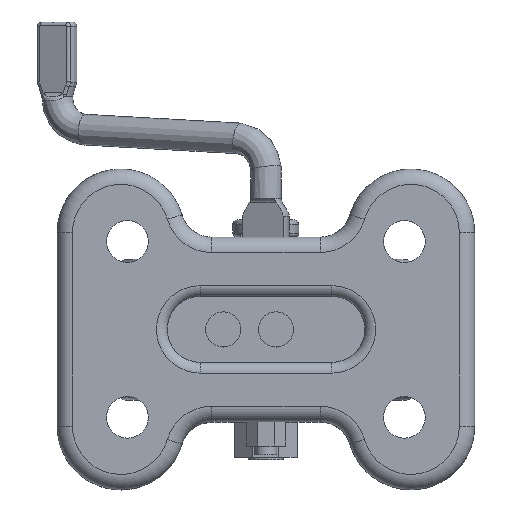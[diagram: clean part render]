
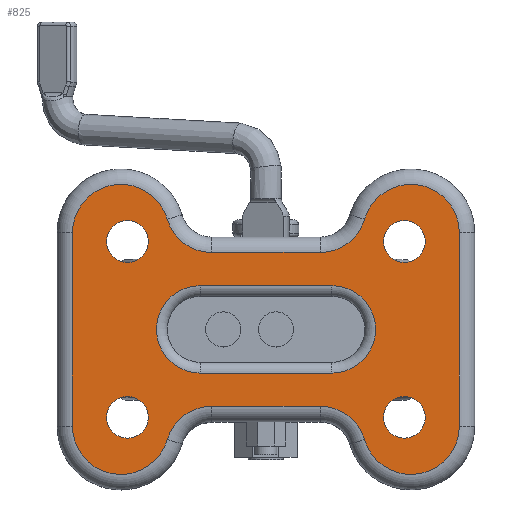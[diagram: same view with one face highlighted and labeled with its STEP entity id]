
A CAD part, top view. The second image highlights one B-rep face of the part: STEP entity #825.
In plain terms, the highlighted planar face has unit normal (0, 0, 1).
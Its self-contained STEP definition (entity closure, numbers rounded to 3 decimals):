
#825=ADVANCED_FACE('',(#1784,#1785,#1786,#1787,#1788,#1789),#1162,.T.);
#1162=PLANE('',#8271);
#1784=FACE_BOUND('',#2090,.T.);
#1785=FACE_BOUND('',#2091,.T.);
#1786=FACE_BOUND('',#2092,.T.);
#1787=FACE_BOUND('',#2093,.T.);
#1788=FACE_BOUND('',#2094,.T.);
#1789=FACE_BOUND('',#2095,.T.);
#2090=EDGE_LOOP('',(#4441,#4442,#4443,#4444,#4445,#4446,#4447,#4448,#4449,
#4450,#4451,#4452));
#2091=EDGE_LOOP('',(#4453,#4454,#4455,#4456));
#2092=EDGE_LOOP('',(#4457));
#2093=EDGE_LOOP('',(#4458));
#2094=EDGE_LOOP('',(#4459));
#2095=EDGE_LOOP('',(#4460));
#2611=LINE('',#13878,#3111);
#2612=LINE('',#13886,#3112);
#2613=LINE('',#13900,#3113);
#2614=LINE('',#13910,#3114);
#2616=LINE('',#13919,#3116);
#2639=LINE('',#14233,#3139);
#3111=VECTOR('',#9330,1.);
#3112=VECTOR('',#9341,1.);
#3113=VECTOR('',#9360,1.);
#3114=VECTOR('',#9375,1.);
#3116=VECTOR('',#9383,1.);
#3139=VECTOR('',#9570,1.);
#4441=ORIENTED_EDGE('',*,*,#7050,.T.);
#4442=ORIENTED_EDGE('',*,*,#7047,.T.);
#4443=ORIENTED_EDGE('',*,*,#7060,.T.);
#4444=ORIENTED_EDGE('',*,*,#7129,.T.);
#4445=ORIENTED_EDGE('',*,*,#7130,.T.);
#4446=ORIENTED_EDGE('',*,*,#7131,.T.);
#4447=ORIENTED_EDGE('',*,*,#7052,.T.);
#4448=ORIENTED_EDGE('',*,*,#7043,.T.);
#4449=ORIENTED_EDGE('',*,*,#7042,.T.);
#4450=ORIENTED_EDGE('',*,*,#7040,.T.);
#4451=ORIENTED_EDGE('',*,*,#7038,.T.);
#4452=ORIENTED_EDGE('',*,*,#7036,.T.);
#4453=ORIENTED_EDGE('',*,*,#7033,.T.);
#4454=ORIENTED_EDGE('',*,*,#7031,.T.);
#4455=ORIENTED_EDGE('',*,*,#7029,.T.);
#4456=ORIENTED_EDGE('',*,*,#7027,.T.);
#4457=ORIENTED_EDGE('',*,*,#7070,.F.);
#4458=ORIENTED_EDGE('',*,*,#7068,.F.);
#4459=ORIENTED_EDGE('',*,*,#7074,.F.);
#4460=ORIENTED_EDGE('',*,*,#7072,.F.);
#6140=VERTEX_POINT('',#13877);
#6141=VERTEX_POINT('',#13879);
#6142=VERTEX_POINT('',#13883);
#6143=VERTEX_POINT('',#13887);
#6144=VERTEX_POINT('',#13893);
#6145=VERTEX_POINT('',#13895);
#6146=VERTEX_POINT('',#13899);
#6147=VERTEX_POINT('',#13903);
#6148=VERTEX_POINT('',#13907);
#6149=VERTEX_POINT('',#13911);
#6152=VERTEX_POINT('',#13918);
#6153=VERTEX_POINT('',#13920);
#6155=VERTEX_POINT('',#13930);
#6160=VERTEX_POINT('',#13945);
#6165=VERTEX_POINT('',#13962);
#6167=VERTEX_POINT('',#13967);
#6169=VERTEX_POINT('',#13972);
#6171=VERTEX_POINT('',#13977);
#6205=VERTEX_POINT('',#14232);
#6206=VERTEX_POINT('',#14234);
#7027=EDGE_CURVE('',#6141,#6140,#2611,.T.);
#7029=EDGE_CURVE('',#6142,#6141,#7772,.T.);
#7031=EDGE_CURVE('',#6143,#6142,#2612,.T.);
#7033=EDGE_CURVE('',#6140,#6143,#7775,.T.);
#7036=EDGE_CURVE('',#6144,#6145,#7778,.T.);
#7038=EDGE_CURVE('',#6146,#6144,#2613,.T.);
#7040=EDGE_CURVE('',#6147,#6146,#7781,.T.);
#7042=EDGE_CURVE('',#6148,#6147,#7783,.T.);
#7043=EDGE_CURVE('',#6149,#6148,#2614,.T.);
#7047=EDGE_CURVE('',#6153,#6152,#2616,.T.);
#7050=EDGE_CURVE('',#6145,#6153,#7787,.T.);
#7052=EDGE_CURVE('',#6155,#6149,#7789,.T.);
#7060=EDGE_CURVE('',#6152,#6160,#7793,.T.);
#7068=EDGE_CURVE('',#6165,#6165,#7797,.T.);
#7070=EDGE_CURVE('',#6167,#6167,#7799,.T.);
#7072=EDGE_CURVE('',#6169,#6169,#7801,.T.);
#7074=EDGE_CURVE('',#6171,#6171,#7803,.T.);
#7129=EDGE_CURVE('',#6160,#6205,#7833,.T.);
#7130=EDGE_CURVE('',#6205,#6206,#2639,.T.);
#7131=EDGE_CURVE('',#6206,#6155,#7834,.T.);
#7772=CIRCLE('',#8166,9.949);
#7775=CIRCLE('',#8171,9.949);
#7778=CIRCLE('',#8175,10.5);
#7781=CIRCLE('',#8180,10.5);
#7783=CIRCLE('',#8183,11.);
#7787=CIRCLE('',#8190,11.);
#7789=CIRCLE('',#8194,11.);
#7793=CIRCLE('',#8201,11.);
#7797=CIRCLE('',#8208,4.75);
#7799=CIRCLE('',#8211,4.75);
#7801=CIRCLE('',#8214,4.75);
#7803=CIRCLE('',#8217,4.75);
#7833=CIRCLE('',#8269,10.5);
#7834=CIRCLE('',#8270,10.5);
#8166=AXIS2_PLACEMENT_3D('',#13882,#9335,#9336);
#8171=AXIS2_PLACEMENT_3D('',#13890,#9346,#9347);
#8175=AXIS2_PLACEMENT_3D('',#13896,#9354,#9355);
#8180=AXIS2_PLACEMENT_3D('',#13904,#9365,#9366);
#8183=AXIS2_PLACEMENT_3D('',#13908,#9371,#9372);
#8190=AXIS2_PLACEMENT_3D('',#13924,#9389,#9390);
#8194=AXIS2_PLACEMENT_3D('',#13929,#9397,#9398);
#8201=AXIS2_PLACEMENT_3D('',#13946,#9415,#9416);
#8208=AXIS2_PLACEMENT_3D('',#13961,#9433,#9434);
#8211=AXIS2_PLACEMENT_3D('',#13966,#9439,#9440);
#8214=AXIS2_PLACEMENT_3D('',#13971,#9445,#9446);
#8217=AXIS2_PLACEMENT_3D('',#13976,#9451,#9452);
#8269=AXIS2_PLACEMENT_3D('',#14231,#9568,#9569);
#8270=AXIS2_PLACEMENT_3D('',#14235,#9571,#9572);
#8271=AXIS2_PLACEMENT_3D('',#14236,#9573,#9574);
#9330=DIRECTION('',(-1.,0.,0.));
#9335=DIRECTION('',(0.,0.,-1.));
#9336=DIRECTION('',(1.,0.,0.));
#9341=DIRECTION('',(1.,0.,0.));
#9346=DIRECTION('',(0.,0.,-1.));
#9347=DIRECTION('',(1.,0.,0.));
#9354=DIRECTION('',(0.,0.,-1.));
#9355=DIRECTION('',(1.,0.,0.));
#9360=DIRECTION('',(-1.,0.,0.));
#9365=DIRECTION('',(0.,0.,-1.));
#9366=DIRECTION('',(1.,0.,0.));
#9371=DIRECTION('',(0.,0.,1.));
#9372=DIRECTION('',(1.,0.,0.));
#9375=DIRECTION('',(0.,1.,0.));
#9383=DIRECTION('',(0.,-1.,0.));
#9389=DIRECTION('',(0.,0.,1.));
#9390=DIRECTION('',(1.,0.,0.));
#9397=DIRECTION('',(0.,0.,1.));
#9398=DIRECTION('',(1.,0.,0.));
#9415=DIRECTION('',(0.,0.,1.));
#9416=DIRECTION('',(1.,0.,0.));
#9433=DIRECTION('',(0.,0.,1.));
#9434=DIRECTION('',(1.,0.,0.));
#9439=DIRECTION('',(0.,0.,1.));
#9440=DIRECTION('',(1.,0.,0.));
#9445=DIRECTION('',(0.,0.,1.));
#9446=DIRECTION('',(1.,0.,0.));
#9451=DIRECTION('',(0.,0.,1.));
#9452=DIRECTION('',(1.,0.,0.));
#9568=DIRECTION('',(0.,0.,-1.));
#9569=DIRECTION('',(1.,0.,0.));
#9570=DIRECTION('',(1.,0.,0.));
#9571=DIRECTION('',(0.,0.,-1.));
#9572=DIRECTION('',(1.,0.,0.));
#9573=DIRECTION('',(0.,0.,1.));
#9574=DIRECTION('',(-1.,0.,0.));
#13877=CARTESIAN_POINT('',(-15.,-9.949,0.));
#13878=CARTESIAN_POINT('',(-15.,-9.949,0.));
#13879=CARTESIAN_POINT('',(14.949,-9.949,0.));
#13882=CARTESIAN_POINT('',(14.949,0.,0.));
#13883=CARTESIAN_POINT('',(14.949,9.949,0.));
#13886=CARTESIAN_POINT('',(14.949,9.949,0.));
#13887=CARTESIAN_POINT('',(-15.,9.949,0.));
#13890=CARTESIAN_POINT('',(-15.,0.,0.));
#13893=CARTESIAN_POINT('',(-12.405,17.5,0.));
#13895=CARTESIAN_POINT('',(-22.488,25.07,0.));
#13896=CARTESIAN_POINT('',(-12.405,28.,0.));
#13899=CARTESIAN_POINT('',(12.304,17.5,0.));
#13900=CARTESIAN_POINT('',(-33.051,17.5,0.));
#13903=CARTESIAN_POINT('',(22.387,25.07,0.));
#13904=CARTESIAN_POINT('',(12.304,28.,0.));
#13907=CARTESIAN_POINT('',(43.949,22.,0.));
#13908=CARTESIAN_POINT('',(32.949,22.,0.));
#13910=CARTESIAN_POINT('',(43.949,-22.,0.));
#13911=CARTESIAN_POINT('',(43.949,-22.,0.));
#13918=CARTESIAN_POINT('',(-44.051,-22.,0.));
#13919=CARTESIAN_POINT('',(-44.051,-22.,0.));
#13920=CARTESIAN_POINT('',(-44.051,22.,0.));
#13924=CARTESIAN_POINT('',(-33.051,22.,0.));
#13929=CARTESIAN_POINT('',(32.949,-22.,0.));
#13930=CARTESIAN_POINT('',(22.387,-25.07,0.));
#13945=CARTESIAN_POINT('',(-22.488,-25.07,0.));
#13946=CARTESIAN_POINT('',(-33.051,-22.,0.));
#13961=CARTESIAN_POINT('',(31.449,-20.,0.));
#13962=CARTESIAN_POINT('',(36.199,-20.,0.));
#13966=CARTESIAN_POINT('',(31.449,20.,0.));
#13967=CARTESIAN_POINT('',(36.199,20.,0.));
#13971=CARTESIAN_POINT('',(-31.551,20.,0.));
#13972=CARTESIAN_POINT('',(-26.801,20.,0.));
#13976=CARTESIAN_POINT('',(-31.551,-20.,0.));
#13977=CARTESIAN_POINT('',(-26.801,-20.,0.));
#14231=CARTESIAN_POINT('',(-12.405,-28.,0.));
#14232=CARTESIAN_POINT('',(-12.405,-17.5,0.));
#14233=CARTESIAN_POINT('',(-33.051,-17.5,0.));
#14234=CARTESIAN_POINT('',(12.304,-17.5,0.));
#14235=CARTESIAN_POINT('',(12.304,-28.,0.));
#14236=CARTESIAN_POINT('',(-33.051,-22.,0.));
